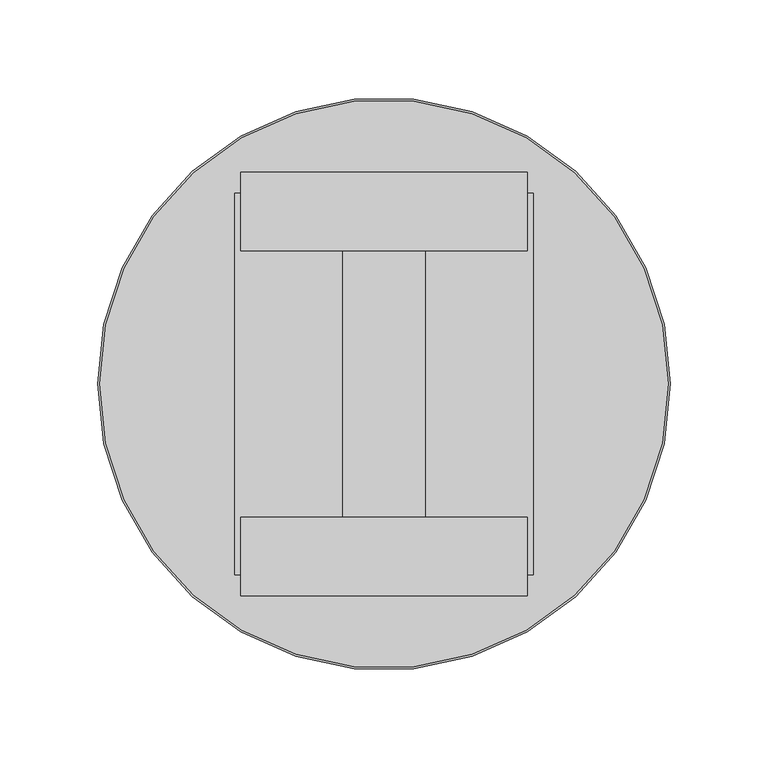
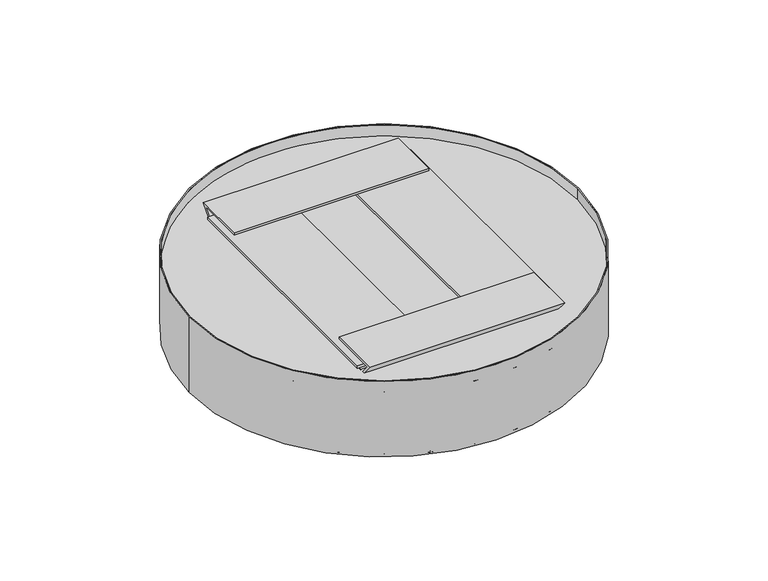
"""IFC4 building model written with IfcOpenShell, lengths in millimetres: proxy geometry, durlum_TOMEO-R-active : durlum_TOMEO-R-ACTIVE 300."""

from ifc_helpers import new_model, si_unit, point, frame, origin, origin_with_axes, origin_2d, place, context, project, spatial, polyline, circle_curve, trimmed, segment, composite_curve, outline, extrude, source, transform, mapped, element, save


def generic_models_93c67618(model_context):
    return source(origin(), model_context, "Body", "SweptSolid", [
        extrude(outline(polyline([(56.0, 76.3333333), (56.0, 21.3333333), (54.0, 21.3333333), (54.0, 47.8333333), (3.0, 47.8333333), (3.0, 21.3333333), (1.0, 21.3333333), (1.0, 76.3333333), (3.0, 76.3333333), (3.0, 49.8333333), (54.0, 49.8333333), (54.0, 76.3333333), (56.0, 76.3333333)])), frame((0.0, -97.6666667, 0.0), z_axis=(0.0, 1.0, 0.0), x_axis=(0.0, 0.0, 1.0)), (0.0, 0.0, 1.0), 195.3333333),
        extrude(outline(polyline([(108.2973023, 60.0), (98.3726306, 48.0), (97.1040606, 48.0), (90.6509118, 53.6332485), (91.6072389, 54.7895514), (97.6666667, 49.5), (105.1101704, 58.5), (68.2973023, 58.5), (68.2973023, 60.0), (108.2973023, 60.0)])), frame((-73.25, 0.0, 0.0), z_axis=(1.0, 0.0, 0.0), x_axis=(0.0, 1.0, 0.0)), (0.0, 0.0, 1.0), 146.5),
        extrude(outline(polyline([(-108.2973023, 60.0), (-68.2973023, 60.0), (-68.2973023, 58.5), (-105.1101704, 58.5), (-97.6666667, 49.5), (-91.6072389, 54.7895514), (-90.6509118, 53.6332485), (-97.1040606, 48.0), (-98.3726306, 48.0), (-108.2973023, 60.0)])), frame((-73.25, 0.0, 0.0), z_axis=(1.0, 0.0, 0.0), x_axis=(0.0, 1.0, 0.0)), (0.0, 0.0, 1.0), 146.5),
        extrude(outline(polyline([(56.0, -21.3333333), (56.0, -76.3333333), (54.0, -76.3333333), (54.0, -49.8333333), (3.0, -49.8333333), (3.0, -76.3333333), (1.0, -76.3333333), (1.0, -21.3333333), (3.0, -21.3333333), (3.0, -47.8333333), (54.0, -47.8333333), (54.0, -21.3333333), (56.0, -21.3333333)])), frame((0.0, -97.6666667, 0.0), z_axis=(0.0, 1.0, 0.0), x_axis=(0.0, 0.0, 1.0)), (0.0, 0.0, 1.0), 195.3333333),
        extrude(outline(composite_curve([segment(trimmed(circle_curve(origin_2d(), 145.5), [point((-145.5, 0.0))], [point((145.5, 0.0))], False, "CARTESIAN"), True, "CONTINUOUS"), segment(trimmed(circle_curve(origin_2d(), 145.5), [point((145.5, 0.0))], [point((-145.5, 0.0))], False, "CARTESIAN"), True, "CONTINUOUS")], self_intersect=False)), frame((0.0, 0.0, 1.0), z_axis=(0.0, 0.0, 1.0), x_axis=(1.0, 0.0, 0.0)), (0.0, 0.0, 1.0), 50.2547795),
        extrude(outline(composite_curve([segment(trimmed(circle_curve(origin_2d(), 145.5), [point((-145.5, 0.0))], [point((145.5, 0.0))], False, "CARTESIAN"), True, "CONTINUOUS"), segment(trimmed(circle_curve(origin_2d(), 145.5), [point((145.5, 0.0))], [point((-145.5, 0.0))], False, "CARTESIAN"), True, "CONTINUOUS")], self_intersect=False)), frame((0.0, 0.0, 1.0), z_axis=(0.0, 0.0, 1.0), x_axis=(1.0, 0.0, 0.0)), (0.0, 0.0, 1.0), 1.0),
        extrude(outline(composite_curve([segment(trimmed(circle_curve(origin_2d(), 145.0), [point((-145.0, 0.0))], [point((145.0, 0.0))], False, "CARTESIAN"), True, "CONTINUOUS"), segment(trimmed(circle_curve(origin_2d(), 145.0), [point((145.0, 0.0))], [point((-145.0, 0.0))], False, "CARTESIAN"), True, "CONTINUOUS")], self_intersect=False)), origin_with_axes(), (0.0, 0.0, 1.0), 1.0),
        extrude(outline(composite_curve([segment(trimmed(circle_curve(origin_2d(), 145.5), [point((-145.5, 0.0))], [point((145.5, 0.0))], False, "CARTESIAN"), True, "CONTINUOUS"), segment(trimmed(circle_curve(origin_2d(), 145.5), [point((145.5, 0.0))], [point((-145.5, 0.0))], False, "CARTESIAN"), True, "CONTINUOUS")], self_intersect=False), holes=[composite_curve([segment(trimmed(circle_curve(origin_2d(), 145.0), [point((-145.0, 0.0))], [point((145.0, 0.0))], True, "CARTESIAN"), True, "CONTINUOUS"), segment(trimmed(circle_curve(origin_2d(), 145.0), [point((145.0, 0.0))], [point((-145.0, 0.0))], True, "CARTESIAN"), True, "CONTINUOUS")], self_intersect=False)]), origin_with_axes(), (0.0, 0.0, 1.0), 1.0),
        extrude(outline(composite_curve([segment(trimmed(circle_curve(origin_2d(), 146.5), [point((-146.5, 0.0))], [point((146.5, 0.0))], False, "CARTESIAN"), True, "CONTINUOUS"), segment(trimmed(circle_curve(origin_2d(), 146.5), [point((146.5, 0.0))], [point((-146.5, 0.0))], False, "CARTESIAN"), True, "CONTINUOUS")], self_intersect=False), holes=[composite_curve([segment(trimmed(circle_curve(origin_2d(), 145.5), [point((-145.5, 0.0))], [point((145.5, 0.0))], True, "CARTESIAN"), True, "CONTINUOUS"), segment(trimmed(circle_curve(origin_2d(), 145.5), [point((145.5, 0.0))], [point((-145.5, 0.0))], True, "CARTESIAN"), True, "CONTINUOUS")], self_intersect=False)]), origin_with_axes(), (0.0, 0.0, 1.0), 60.0),
    ])


if __name__ == "__main__":
    model = new_model("IFC4")
    model_context = context("Model", 3, world=origin())
    ifc_project = project(units=[si_unit("LENGTHUNIT", "METRE", prefix="MILLI")], contexts=[model_context])
    site = spatial("IfcSite", under=ifc_project)
    building = spatial("IfcBuilding", under=site)
    placement = place(None, origin())
    generic_models_shape = generic_models_93c67618(model_context)
    element("IfcBuildingElementProxy", 1, Name="durlum_TOMEO-R-active : durlum_TOMEO-R-ACTIVE 300", ObjectType="durlum_TOMEO-R-active : durlum_TOMEO-R-ACTIVE 300", at=placement, inside=building, context=model_context, shape_type="MappedRepresentation", body=[
        mapped(generic_models_shape, transform((0.0, 0.0, 0.0), x_axis=(1.0, 0.0, 0.0), y_axis=(0.0, 1.0, 0.0), z_axis=(0.0, 0.0, 1.0))),
    ])
    save(model, "model.ifc")
